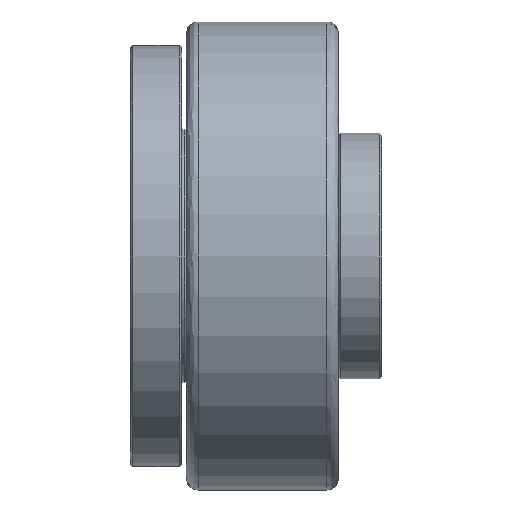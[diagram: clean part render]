
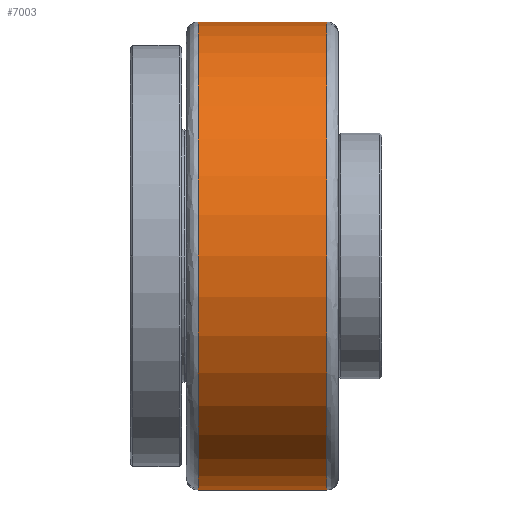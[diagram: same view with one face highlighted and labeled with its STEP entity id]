
A CAD part, front view. The second image highlights one B-rep face of the part: STEP entity #7003.
In plain terms, the highlighted cylindrical face has radius 100 mm (diameter 200 mm), a partial arc.
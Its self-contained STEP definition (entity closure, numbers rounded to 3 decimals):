
#2349 = DIRECTION ( 'NONE',  ( -1., 0., 0. ) ) ;
#3331 = DIRECTION ( 'NONE',  ( 1., 0., 0. ) ) ;
#4628 = CARTESIAN_POINT ( 'NONE',  ( 95., 800., -100. ) ) ;
#5156 = VECTOR ( 'NONE', #36236, 1000. ) ;
#5719 = CARTESIAN_POINT ( 'NONE',  ( 95., 800., 0. ) ) ;
#6556 = VERTEX_POINT ( 'NONE', #37700 ) ;
#6577 = CIRCLE ( 'NONE', #7994, 100. ) ;
#7003 = ADVANCED_FACE ( 'NONE', ( #25497 ), #19951, .T. ) ;
#7517 = DIRECTION ( 'NONE',  ( 0., 0., 1. ) ) ;
#7994 = AXIS2_PLACEMENT_3D ( 'NONE', #38221, #3331, #18878 ) ;
#10767 = LINE ( 'NONE', #22828, #37875 ) ;
#10992 = CARTESIAN_POINT ( 'NONE',  ( 37.713, 800., 0. ) ) ;
#12281 = DIRECTION ( 'NONE',  ( 0., 0., 1. ) ) ;
#15711 = ORIENTED_EDGE ( 'NONE', *, *, #32214, .T. ) ;
#17097 = CARTESIAN_POINT ( 'NONE',  ( 95., 800., 100. ) ) ;
#17753 = CARTESIAN_POINT ( 'NONE',  ( 40., 800., -100. ) ) ;
#17849 = ORIENTED_EDGE ( 'NONE', *, *, #28430, .F. ) ;
#18015 = AXIS2_PLACEMENT_3D ( 'NONE', #5719, #2349, #12281 ) ;
#18878 = DIRECTION ( 'NONE',  ( 0., 0., 1. ) ) ;
#19209 = AXIS2_PLACEMENT_3D ( 'NONE', #10992, #30256, #7517 ) ;
#19951 = CYLINDRICAL_SURFACE ( 'NONE', #19209, 100. ) ;
#22828 = CARTESIAN_POINT ( 'NONE',  ( 37.713, 800., -100. ) ) ;
#23765 = EDGE_CURVE ( 'NONE', #27224, #6556, #34316, .T. ) ;
#25497 = FACE_OUTER_BOUND ( 'NONE', #39366, .T. ) ;
#25918 = DIRECTION ( 'NONE',  ( -1., 0., 0. ) ) ;
#25927 = EDGE_CURVE ( 'NONE', #28291, #27224, #31239, .T. ) ;
#27224 = VERTEX_POINT ( 'NONE', #17097 ) ;
#28291 = VERTEX_POINT ( 'NONE', #4628 ) ;
#28430 = EDGE_CURVE ( 'NONE', #28291, #28714, #10767, .T. ) ;
#28686 = ORIENTED_EDGE ( 'NONE', *, *, #25927, .T. ) ;
#28714 = VERTEX_POINT ( 'NONE', #17753 ) ;
#30256 = DIRECTION ( 'NONE',  ( -1., 0., 0. ) ) ;
#31239 = CIRCLE ( 'NONE', #18015, 100. ) ;
#32214 = EDGE_CURVE ( 'NONE', #6556, #28714, #6577, .T. ) ;
#33331 = CARTESIAN_POINT ( 'NONE',  ( 37.713, 800., 100. ) ) ;
#34316 = LINE ( 'NONE', #33331, #5156 ) ;
#35765 = ORIENTED_EDGE ( 'NONE', *, *, #23765, .T. ) ;
#36236 = DIRECTION ( 'NONE',  ( -1., 0., 0. ) ) ;
#37700 = CARTESIAN_POINT ( 'NONE',  ( 40., 800., 100. ) ) ;
#37875 = VECTOR ( 'NONE', #25918, 1000. ) ;
#38221 = CARTESIAN_POINT ( 'NONE',  ( 40., 800., 0. ) ) ;
#39366 = EDGE_LOOP ( 'NONE', ( #17849, #28686, #35765, #15711 ) ) ;
